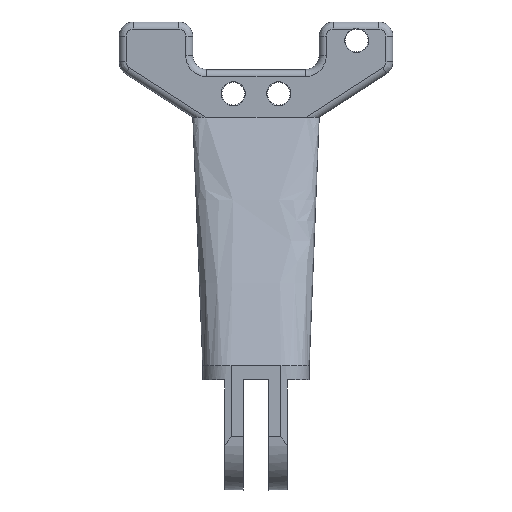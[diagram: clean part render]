
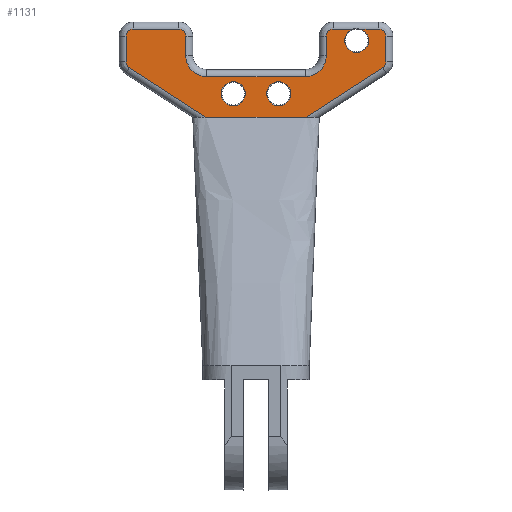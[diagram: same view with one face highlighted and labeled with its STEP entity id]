
A CAD part, left-side view. The second image highlights one B-rep face of the part: STEP entity #1131.
In plain terms, the highlighted planar face has unit normal (-1, 0, 0).
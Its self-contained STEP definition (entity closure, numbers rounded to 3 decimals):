
#60=FACE_BOUND('',#343,.T.);
#61=FACE_BOUND('',#344,.T.);
#69=LINE('',#1710,#162);
#70=LINE('',#1714,#163);
#71=LINE('',#1718,#164);
#72=LINE('',#1722,#165);
#73=LINE('',#1726,#166);
#74=LINE('',#1730,#167);
#75=LINE('',#1734,#168);
#76=LINE('',#1736,#169);
#77=LINE('',#1738,#170);
#78=LINE('',#1742,#171);
#79=LINE('',#1745,#172);
#162=VECTOR('',#1355,10.);
#163=VECTOR('',#1358,10.);
#164=VECTOR('',#1361,10.);
#165=VECTOR('',#1364,10.);
#166=VECTOR('',#1367,10.);
#167=VECTOR('',#1370,10.);
#168=VECTOR('',#1373,10.);
#169=VECTOR('',#1374,10.);
#170=VECTOR('',#1375,10.);
#171=VECTOR('',#1378,10.);
#172=VECTOR('',#1381,10.);
#255=PLANE('',#1213);
#278=FACE_OUTER_BOUND('',#342,.T.);
#342=EDGE_LOOP('',(#780,#781,#782,#783,#784,#785,#786,#787,#788,#789,#790,
#791,#792,#793,#794,#795,#796,#797,#798,#799));
#343=EDGE_LOOP('',(#800));
#344=EDGE_LOOP('',(#801));
#414=CIRCLE('',#1209,1.7);
#418=CIRCLE('',#1214,1.7);
#419=CIRCLE('',#1215,1.);
#420=CIRCLE('',#1216,3.);
#421=CIRCLE('',#1217,3.);
#422=CIRCLE('',#1218,1.);
#423=CIRCLE('',#1219,1.);
#424=CIRCLE('',#1220,1.);
#425=CIRCLE('',#1221,1.);
#426=CIRCLE('',#1222,1.);
#427=CIRCLE('',#1223,1.7);
#488=VERTEX_POINT('',#1698);
#491=VERTEX_POINT('',#1706);
#492=VERTEX_POINT('',#1707);
#493=VERTEX_POINT('',#1709);
#494=VERTEX_POINT('',#1711);
#495=VERTEX_POINT('',#1713);
#496=VERTEX_POINT('',#1715);
#497=VERTEX_POINT('',#1717);
#498=VERTEX_POINT('',#1719);
#499=VERTEX_POINT('',#1721);
#500=VERTEX_POINT('',#1723);
#501=VERTEX_POINT('',#1725);
#502=VERTEX_POINT('',#1727);
#503=VERTEX_POINT('',#1729);
#504=VERTEX_POINT('',#1731);
#505=VERTEX_POINT('',#1733);
#506=VERTEX_POINT('',#1735);
#507=VERTEX_POINT('',#1737);
#508=VERTEX_POINT('',#1739);
#509=VERTEX_POINT('',#1741);
#510=VERTEX_POINT('',#1743);
#511=VERTEX_POINT('',#1746);
#600=EDGE_CURVE('',#488,#488,#414,.T.);
#604=EDGE_CURVE('',#491,#492,#418,.T.);
#605=EDGE_CURVE('',#493,#491,#69,.T.);
#606=EDGE_CURVE('',#494,#493,#419,.T.);
#607=EDGE_CURVE('',#495,#494,#70,.T.);
#608=EDGE_CURVE('',#496,#495,#420,.T.);
#609=EDGE_CURVE('',#497,#496,#71,.T.);
#610=EDGE_CURVE('',#498,#497,#421,.T.);
#611=EDGE_CURVE('',#499,#498,#72,.T.);
#612=EDGE_CURVE('',#500,#499,#422,.T.);
#613=EDGE_CURVE('',#501,#500,#73,.T.);
#614=EDGE_CURVE('',#502,#501,#423,.T.);
#615=EDGE_CURVE('',#503,#502,#74,.T.);
#616=EDGE_CURVE('',#504,#503,#424,.T.);
#617=EDGE_CURVE('',#505,#504,#75,.T.);
#618=EDGE_CURVE('',#505,#506,#76,.T.);
#619=EDGE_CURVE('',#507,#506,#77,.T.);
#620=EDGE_CURVE('',#508,#507,#425,.T.);
#621=EDGE_CURVE('',#509,#508,#78,.T.);
#622=EDGE_CURVE('',#510,#509,#426,.T.);
#623=EDGE_CURVE('',#492,#510,#79,.T.);
#624=EDGE_CURVE('',#511,#511,#427,.T.);
#780=ORIENTED_EDGE('',*,*,#604,.F.);
#781=ORIENTED_EDGE('',*,*,#605,.F.);
#782=ORIENTED_EDGE('',*,*,#606,.F.);
#783=ORIENTED_EDGE('',*,*,#607,.F.);
#784=ORIENTED_EDGE('',*,*,#608,.F.);
#785=ORIENTED_EDGE('',*,*,#609,.F.);
#786=ORIENTED_EDGE('',*,*,#610,.F.);
#787=ORIENTED_EDGE('',*,*,#611,.F.);
#788=ORIENTED_EDGE('',*,*,#612,.F.);
#789=ORIENTED_EDGE('',*,*,#613,.F.);
#790=ORIENTED_EDGE('',*,*,#614,.F.);
#791=ORIENTED_EDGE('',*,*,#615,.F.);
#792=ORIENTED_EDGE('',*,*,#616,.F.);
#793=ORIENTED_EDGE('',*,*,#617,.F.);
#794=ORIENTED_EDGE('',*,*,#618,.T.);
#795=ORIENTED_EDGE('',*,*,#619,.F.);
#796=ORIENTED_EDGE('',*,*,#620,.F.);
#797=ORIENTED_EDGE('',*,*,#621,.F.);
#798=ORIENTED_EDGE('',*,*,#622,.F.);
#799=ORIENTED_EDGE('',*,*,#623,.F.);
#800=ORIENTED_EDGE('',*,*,#624,.F.);
#801=ORIENTED_EDGE('',*,*,#600,.F.);
#1131=ADVANCED_FACE('',(#278,#60,#61),#255,.T.);
#1209=AXIS2_PLACEMENT_3D('',#1699,#1343,#1344);
#1213=AXIS2_PLACEMENT_3D('',#1705,#1351,#1352);
#1214=AXIS2_PLACEMENT_3D('',#1708,#1353,#1354);
#1215=AXIS2_PLACEMENT_3D('',#1712,#1356,#1357);
#1216=AXIS2_PLACEMENT_3D('',#1716,#1359,#1360);
#1217=AXIS2_PLACEMENT_3D('',#1720,#1362,#1363);
#1218=AXIS2_PLACEMENT_3D('',#1724,#1365,#1366);
#1219=AXIS2_PLACEMENT_3D('',#1728,#1368,#1369);
#1220=AXIS2_PLACEMENT_3D('',#1732,#1371,#1372);
#1221=AXIS2_PLACEMENT_3D('',#1740,#1376,#1377);
#1222=AXIS2_PLACEMENT_3D('',#1744,#1379,#1380);
#1223=AXIS2_PLACEMENT_3D('',#1747,#1382,#1383);
#1343=DIRECTION('center_axis',(-1.,0.,0.));
#1344=DIRECTION('ref_axis',(0.,-1.,0.));
#1351=DIRECTION('center_axis',(-1.,0.,0.));
#1352=DIRECTION('ref_axis',(0.,-1.,0.));
#1353=DIRECTION('center_axis',(-1.,0.,0.));
#1354=DIRECTION('ref_axis',(0.,0.,
-1.));
#1355=DIRECTION('',(0.,-1.,0.));
#1356=DIRECTION('center_axis',(1.,0.,0.));
#1357=DIRECTION('ref_axis',(0.,0.707,0.707));
#1358=DIRECTION('',(0.,0.,1.));
#1359=DIRECTION('center_axis',(-1.,0.,0.));
#1360=DIRECTION('ref_axis',(0.,-0.707,-0.707));
#1361=DIRECTION('',(0.,-1.,0.));
#1362=DIRECTION('center_axis',(-1.,0.,0.));
#1363=DIRECTION('ref_axis',(0.,0.707,-0.707));
#1364=DIRECTION('',(0.,0.,-1.));
#1365=DIRECTION('center_axis',(1.,0.,0.));
#1366=DIRECTION('ref_axis',(0.,-0.707,0.707));
#1367=DIRECTION('',(0.,-1.,0.));
#1368=DIRECTION('center_axis',(1.,0.,0.));
#1369=DIRECTION('ref_axis',(0.,0.707,0.707));
#1370=DIRECTION('',(0.,0.,1.));
#1371=DIRECTION('center_axis',(1.,0.,0.));
#1372=DIRECTION('ref_axis',(0.,0.878,-0.478));
#1373=DIRECTION('',(0.,0.84,0.542));
#1374=DIRECTION('',(0.,-1.,0.));
#1375=DIRECTION('',(0.,0.84,-0.542));
#1376=DIRECTION('center_axis',(1.,0.,0.));
#1377=DIRECTION('ref_axis',(0.,-0.878,-0.478));
#1378=DIRECTION('',(0.,0.,-1.));
#1379=DIRECTION('center_axis',(1.,0.,0.));
#1380=DIRECTION('ref_axis',(0.,-0.707,0.707));
#1381=DIRECTION('',(0.,-1.,0.));
#1382=DIRECTION('center_axis',(-1.,0.,0.));
#1383=DIRECTION('ref_axis',(0.,-1.,0.));
#1698=CARTESIAN_POINT('',(223.,23.2,71.2));
#1699=CARTESIAN_POINT('Origin',(223.,23.2,69.5));
#1705=CARTESIAN_POINT('Origin',(223.,20.,72.9));
#1706=CARTESIAN_POINT('',(223.,6.399,78.6));
#1707=CARTESIAN_POINT('',(223.,5.251,78.6));
#1708=CARTESIAN_POINT('Origin',(223.,5.825,77.));
#1709=CARTESIAN_POINT('',(223.,9.1,78.6));
#1710=CARTESIAN_POINT('',(223.,11.363,78.6));
#1711=CARTESIAN_POINT('',(223.,10.1,77.6));
#1712=CARTESIAN_POINT('Origin',(223.,9.1,77.6));
#1713=CARTESIAN_POINT('',(223.,10.1,74.9));
#1714=CARTESIAN_POINT('',(223.,10.1,75.25));
#1715=CARTESIAN_POINT('',(223.,13.1,71.9));
#1716=CARTESIAN_POINT('Origin',(223.,13.1,74.9));
#1717=CARTESIAN_POINT('',(223.,26.9,71.9));
#1718=CARTESIAN_POINT('',(223.,16.55,71.9));
#1719=CARTESIAN_POINT('',(223.,29.9,74.9));
#1720=CARTESIAN_POINT('Origin',(223.,26.9,74.9));
#1721=CARTESIAN_POINT('',(223.,29.9,77.6));
#1722=CARTESIAN_POINT('',(223.,29.9,73.9));
#1723=CARTESIAN_POINT('',(223.,30.9,78.6));
#1724=CARTESIAN_POINT('Origin',(223.,30.9,77.6));
#1725=CARTESIAN_POINT('',(223.,37.275,78.6));
#1726=CARTESIAN_POINT('',(223.,25.45,78.6));
#1727=CARTESIAN_POINT('',(223.,38.275,77.6));
#1728=CARTESIAN_POINT('Origin',(223.,37.275,77.6));
#1729=CARTESIAN_POINT('',(223.,38.275,73.989));
#1730=CARTESIAN_POINT('',(223.,38.275,75.25));
#1731=CARTESIAN_POINT('',(223.,37.817,73.149));
#1732=CARTESIAN_POINT('Origin',(223.,37.275,73.989));
#1733=CARTESIAN_POINT('',(223.,27.057,66.2));
#1734=CARTESIAN_POINT('',(223.,31.474,69.053));
#1735=CARTESIAN_POINT('',(223.,12.943,66.2));
#1736=CARTESIAN_POINT('',(223.,28.9,66.2));
#1737=CARTESIAN_POINT('',(223.,2.183,73.149));
#1738=CARTESIAN_POINT('',(223.,13.256,65.998));
#1739=CARTESIAN_POINT('',(223.,1.725,73.989));
#1740=CARTESIAN_POINT('Origin',(223.,2.725,73.989));
#1741=CARTESIAN_POINT('',(223.,1.725,77.6));
#1742=CARTESIAN_POINT('',(223.,1.725,73.445));
#1743=CARTESIAN_POINT('',(223.,2.725,78.6));
#1744=CARTESIAN_POINT('Origin',(223.,2.725,77.6));
#1745=CARTESIAN_POINT('',(223.,11.363,78.6));
#1746=CARTESIAN_POINT('',(223.,16.8,71.2));
#1747=CARTESIAN_POINT('Origin',(223.,16.8,69.5));
